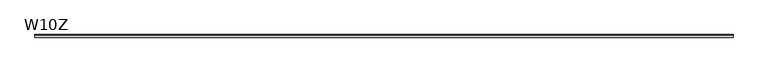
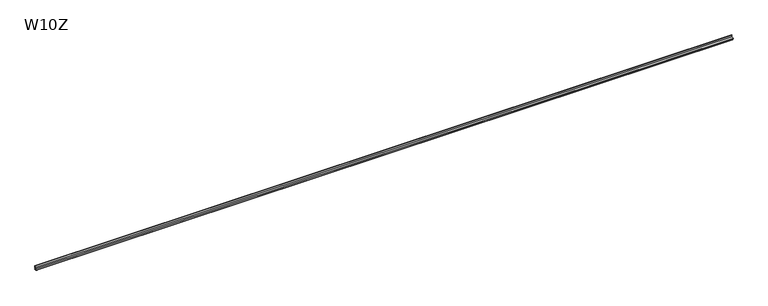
"""IFC4 building model written with IfcOpenShell, lengths in millimetres: proxy geometry, W10Z Profil okapowy prosty : W10Z."""

from ifc_helpers import new_model, si_unit, point, frame, frame_2d, origin, place, context, project, spatial, polyline, circle_curve, trimmed, segment, composite_curve, outline, extrude, source, transform, mapped, element, save


def w10z_befd8e32(model_context):
    return source(origin(), model_context, "Body", "SweptSolid", [
        extrude(outline(composite_curve([segment(trimmed(circle_curve(frame_2d((4.8124897, 1.0061585)), 22.7215426), [point((-13.9635858, -11.7894457))], [point((-17.8867645, 0.0))], False, "CARTESIAN"), True, "CONTINUOUS"), segment(polyline([(-17.8867645, 0.0), (0.0, 0.0), (0.0, 14.0), (1.4, 14.0), (1.4, -1.4), (-11.6, -1.4), (-11.6, -3.4), (-12.8, -3.4), (-12.8, -1.4), (-16.5741228, -1.4)]), True, "CONTINUOUS"), segment(trimmed(circle_curve(frame_2d((4.8124897, 1.0061585)), 21.5215426), [point((-16.5741228, -1.4))], [point((-12.4098176, -11.9))], True, "CARTESIAN"), True, "CONTINUOUS"), segment(polyline([(-12.4098176, -11.9), (1.4, -11.9), (1.4, -13.1), (-11.4845188, -13.1)]), True, "CONTINUOUS"), segment(trimmed(circle_curve(frame_2d((-11.4845188, -10.1)), 3.0), [point((-11.4845188, -13.1))], [point((-13.9635858, -11.7894457))], False, "CARTESIAN"), True, "CONTINUOUS")], self_intersect=False)), frame((0.0, 0.0, 0.0), z_axis=(1.0, 0.0, 0.0), x_axis=(0.0, 1.0, 0.0)), (0.0, 0.0, 1.0), 5068.2350545),
    ])


if __name__ == "__main__":
    model = new_model("IFC4")
    model_context = context("Model", 3, world=origin())
    ifc_project = project(units=[si_unit("LENGTHUNIT", "METRE", prefix="MILLI")], contexts=[model_context])
    site = spatial("IfcSite", under=ifc_project)
    building = spatial("IfcBuilding", under=site)
    placement = place(None, origin())
    w10z_shape = w10z_befd8e32(model_context)
    element("IfcBuildingElementProxy", 1, Name="W10Z Profil okapowy prosty : W10Z", ObjectType="W10Z Profil okapowy prosty : W10Z", at=placement, inside=building, context=model_context, shape_type="MappedRepresentation", body=[
        mapped(w10z_shape, transform((0.0, 0.0, 0.0), x_axis=(1.0, 0.0, 0.0), y_axis=(0.0, 1.0, 0.0), z_axis=(0.0, 0.0, 1.0))),
    ])
    save(model, "model.ifc")
